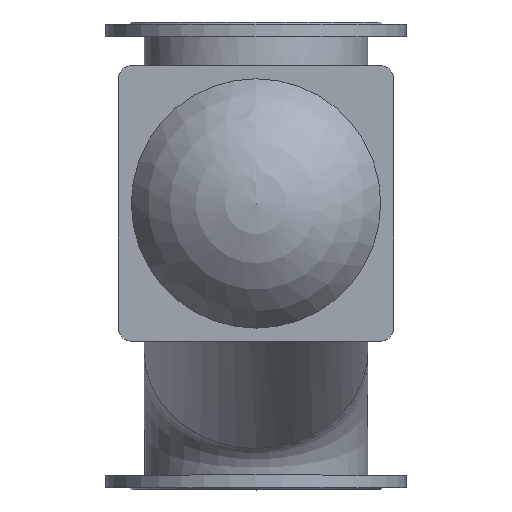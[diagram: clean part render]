
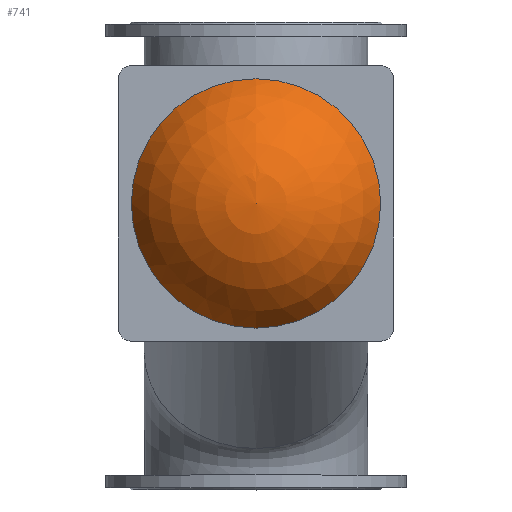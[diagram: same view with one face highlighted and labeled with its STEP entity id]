
A CAD part, top view. The second image highlights one B-rep face of the part: STEP entity #741.
In plain terms, the highlighted spherical face has radius 267 mm.
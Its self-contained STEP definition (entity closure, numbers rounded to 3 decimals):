
#741=ADVANCED_FACE('',(#1739),#1741,.T.);
#1739=FACE_OUTER_BOUND('',#1740,.T.);
#1740=EDGE_LOOP('',(#2143));
#1741=SPHERICAL_SURFACE('',#1742,267.);
#1742=AXIS2_PLACEMENT_3D('',#1743,#1744,#1745);
#1743=CARTESIAN_POINT('',(0.,100.,543.));
#1744=DIRECTION('',(0.,0.,-1.));
#1745=DIRECTION('',(0.,1.,0.));
#2143=ORIENTED_EDGE('',*,*,#2344,.T.);
#2344=EDGE_CURVE('',#2653,#2653,#2654,.F.);
#2653=VERTEX_POINT('',#3684);
#2654=CIRCLE('',#3685,240.);
#3684=CARTESIAN_POINT('',(0.,340.,660.));
#3685=AXIS2_PLACEMENT_3D('',#3686,#3687,#3688);
#3686=CARTESIAN_POINT('',(0.,100.,660.));
#3687=DIRECTION('',(0.,0.,-1.));
#3688=DIRECTION('',(0.,1.,0.));
